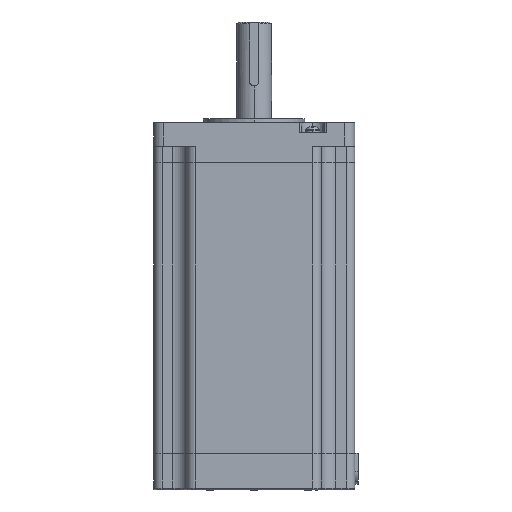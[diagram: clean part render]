
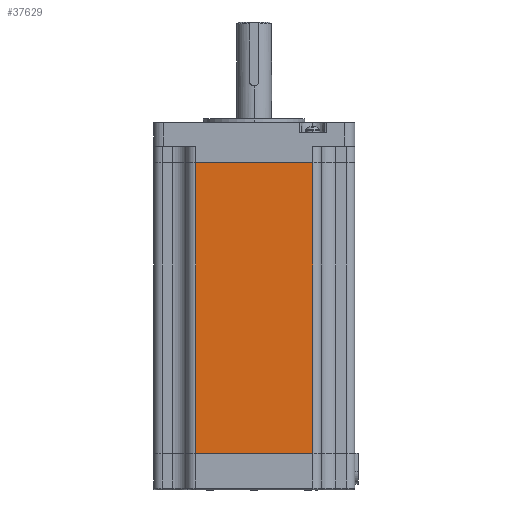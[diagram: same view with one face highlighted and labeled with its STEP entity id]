
A CAD part, left-side view. The second image highlights one B-rep face of the part: STEP entity #37629.
In plain terms, the highlighted planar face has unit normal (-1, 0, 0).
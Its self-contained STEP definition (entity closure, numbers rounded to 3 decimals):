
#1266 = ORIENTED_EDGE ( 'NONE', *, *, #64687, .F. ) ;
#7460 = EDGE_LOOP ( 'NONE', ( #73489, #29762, #1266, #59798 ) ) ;
#9183 = CARTESIAN_POINT ( 'NONE',  ( -54.95, 32., 0. ) ) ;
#11060 = VECTOR ( 'NONE', #27554, 1000. ) ;
#12211 = LINE ( 'NONE', #13866, #90020 ) ;
#13866 = CARTESIAN_POINT ( 'NONE',  ( -54.95, 32., 159. ) ) ;
#21459 = DIRECTION ( 'NONE',  ( 0., 0., -1. ) ) ;
#27554 = DIRECTION ( 'NONE',  ( 0., -1., 0. ) ) ;
#28789 = LINE ( 'NONE', #72718, #11060 ) ;
#29762 = ORIENTED_EDGE ( 'NONE', *, *, #76602, .T. ) ;
#32105 = DIRECTION ( 'NONE',  ( 0., 0., 1. ) ) ;
#35209 = CARTESIAN_POINT ( 'NONE',  ( -54.95, -32., 0. ) ) ;
#37629 = ADVANCED_FACE ( 'NONE', ( #54776 ), #56447, .F. ) ;
#41607 = DIRECTION ( 'NONE',  ( 1., 0., 0. ) ) ;
#44476 = DIRECTION ( 'NONE',  ( 0., -1., 0. ) ) ;
#47361 = CARTESIAN_POINT ( 'NONE',  ( -54.95, -32., 159. ) ) ;
#54715 = VECTOR ( 'NONE', #44476, 1000. ) ;
#54776 = FACE_OUTER_BOUND ( 'NONE', #7460, .T. ) ;
#56447 = PLANE ( 'NONE',  #73017 ) ;
#56462 = VERTEX_POINT ( 'NONE', #35209 ) ;
#59798 = ORIENTED_EDGE ( 'NONE', *, *, #79566, .T. ) ;
#62966 = VERTEX_POINT ( 'NONE', #9183 ) ;
#64687 = EDGE_CURVE ( 'NONE', #78146, #66469, #77071, .T. ) ;
#66469 = VERTEX_POINT ( 'NONE', #87599 ) ;
#72718 = CARTESIAN_POINT ( 'NONE',  ( -54.95, 36.6, 0. ) ) ;
#73017 = AXIS2_PLACEMENT_3D ( 'NONE', #86647, #41607, #94237 ) ;
#73489 = ORIENTED_EDGE ( 'NONE', *, *, #74344, .T. ) ;
#74344 = EDGE_CURVE ( 'NONE', #62966, #56462, #28789, .T. ) ;
#74401 = CARTESIAN_POINT ( 'NONE',  ( -54.95, 36.6, 159. ) ) ;
#76602 = EDGE_CURVE ( 'NONE', #56462, #66469, #83558, .T. ) ;
#77071 = LINE ( 'NONE', #74401, #54715 ) ;
#78146 = VERTEX_POINT ( 'NONE', #94499 ) ;
#79566 = EDGE_CURVE ( 'NONE', #78146, #62966, #12211, .T. ) ;
#81204 = VECTOR ( 'NONE', #32105, 1000. ) ;
#83558 = LINE ( 'NONE', #47361, #81204 ) ;
#86647 = CARTESIAN_POINT ( 'NONE',  ( -54.95, 36.6, 159. ) ) ;
#87599 = CARTESIAN_POINT ( 'NONE',  ( -54.95, -32., 159. ) ) ;
#90020 = VECTOR ( 'NONE', #21459, 1000. ) ;
#94237 = DIRECTION ( 'NONE',  ( 0., 1., 0. ) ) ;
#94499 = CARTESIAN_POINT ( 'NONE',  ( -54.95, 32., 159. ) ) ;
